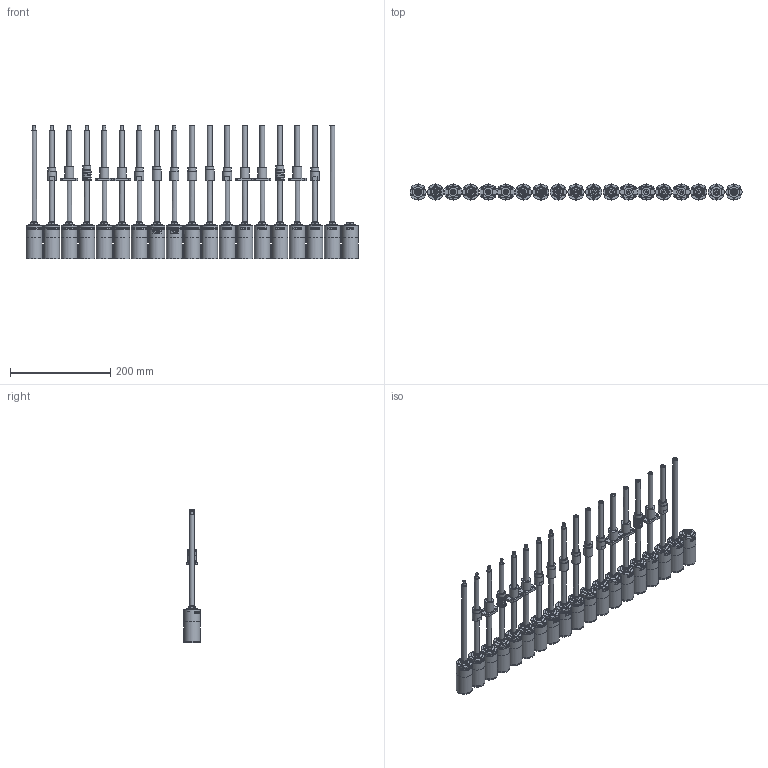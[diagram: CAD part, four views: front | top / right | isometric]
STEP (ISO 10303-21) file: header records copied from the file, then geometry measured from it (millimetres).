
FILE_DESCRIPTION(/* description */ (''),/* implementation_level */ '2;1');
FILE_NAME(/* name */ '32L-4stage_standard_KWNx_KWS1_KF9.stp',/* time_stamp */ '2024-02-27T15:38:22+01:00',/* author */ ('DR. FRITZ FAULHABER GmbH & Co. KG'),/* organization */ ('DR. FRITZ FAULHABER GmbH & Co. KG'),/* preprocessor_version */ 'ST-DEVELOPER v19.3',/* originating_system */ 'SIEMENS PLM Software NX2212.4000',/* authorisation */ '');
FILE_SCHEMA (('AUTOMOTIVE_DESIGN { 1 0 10303 214 3 1 1 1 }'));
Length unit declared in the file: millimetre
Products named in the file (1): C_objects
Bounding box: 662 x 32.01 x 265.9 mm (x, y, z)
Volume: 1332457 mm3; surface area: 309851.3 mm2
Topology: 19 solids, 19 shells, 2862 faces, 6774 edges, 4468 vertices
Faces by surface type: plane 1502, cylinder 687, bspline 614, torus 38, cone 21
Full cylindrical faces by diameter (mm): 2.5 x114, 4.5 x25, 6 x9, 6.4 x1, 7.5 x1, 8.1 x1, 10 x52, 10.6 x18, 14.568 x19, 15.8 x2, 16 x10, 18 x31, 18.5 x2, 22 x19, 29.5 x2, 29.8 x19, 31.999 x19, 32 x38
Entity records: 184366 total; most frequent: CARTESIAN_POINT 114150, ORIENTED_EDGE 12368, DIRECTION 9227, EDGE_CURVE 6184, VERTEX_POINT 4356, EDGE_LOOP 3995, AXIS2_PLACEMENT_3D 3855, B_SPLINE_CURVE_WITH_KNOTS 3062
